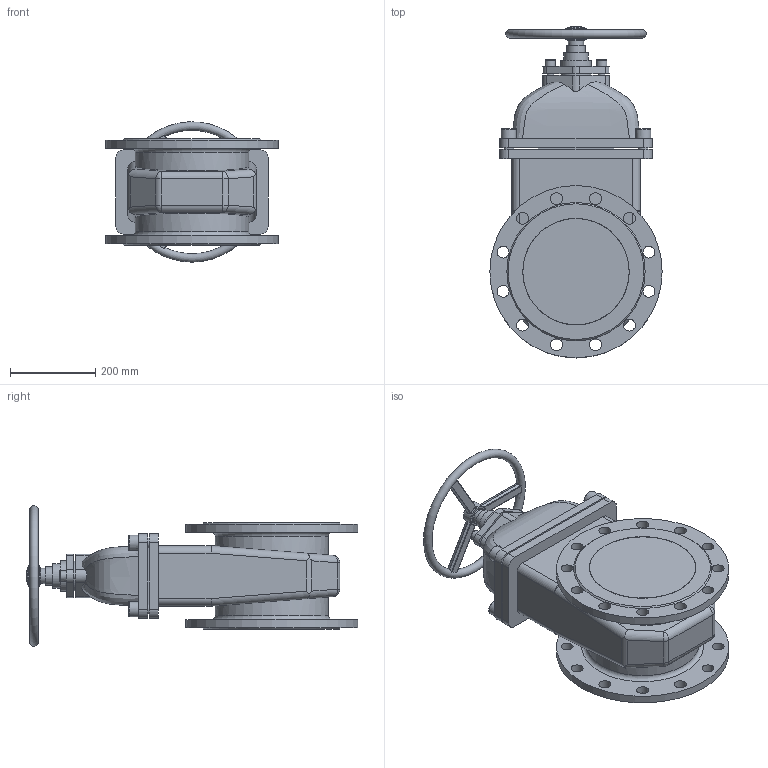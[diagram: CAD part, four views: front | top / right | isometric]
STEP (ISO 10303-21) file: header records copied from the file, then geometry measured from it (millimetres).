
FILE_DESCRIPTION(('STEP AP242'), '1');
FILE_NAME('GVWN1414N-2W-F-S blue Çàäâèæêà êëèíîâàÿ ñ íåâèäâèæíûì øòîêîì DN.ru Äó250 Ðó10-16', '', ('UNSPECIFIED'), ('UNSPECIFIED'), 'C3D Converter', 'C3D Toolkit', '');
FILE_SCHEMA(('AP242_MANAGED_MODEL_BASED_3D_ENGINEERING_MIM_LF { 1 0 10303 442 1 1 4 }'));
Length unit declared in the file: millimetre
Products named in the file (1): GVWN1414N-2W-F-S blue
Bounding box: 405 x 780 x 329.8 mm (x, y, z)
Volume: 33809893.6 mm3; surface area: 1222071.3 mm2
Topology: 1 solids, 1 shells, 357 faces, 913 edges, 581 vertices
Faces by surface type: plane 152, cylinder 105, bspline 38, extrusion 27, torus 19, cone 8, sphere 8
Full cylindrical faces by diameter (mm): 16 x2, 24 x6, 25 x1, 28 x24, 35.5 x1, 36 x4, 40 x2, 42.6 x1, 50 x1, 56.8 x1, 71 x2, 250 x2, 266.25 x2, 405 x2
Entity records: 18524 total; most frequent: CARTESIAN_POINT 9903, ORIENTED_EDGE 1646, DIRECTION 1326, EDGE_CURVE 823, VERTEX_POINT 572, EDGE_LOOP 525, AXIS2_PLACEMENT_3D 472, FACE_BOUND 405
